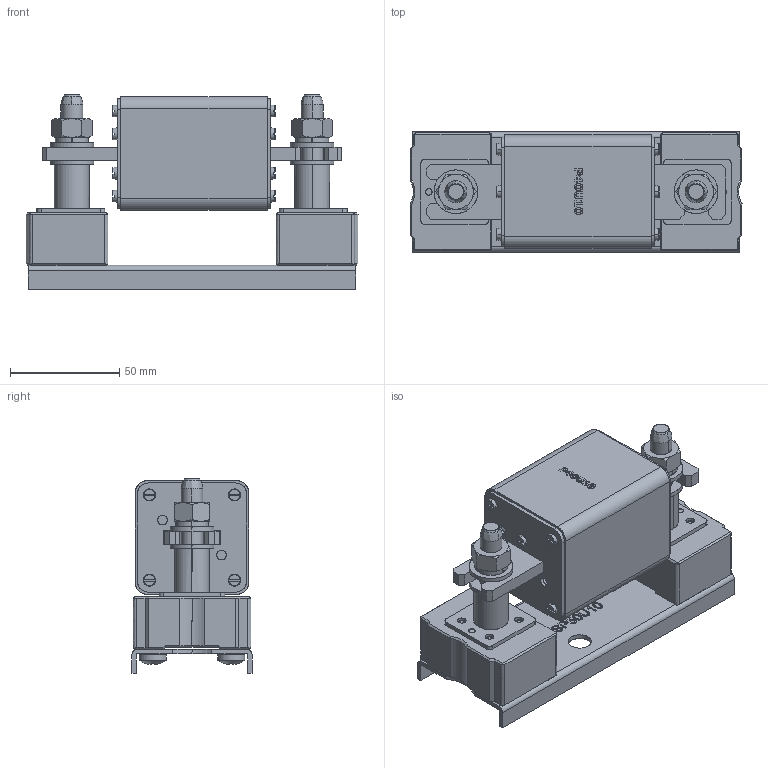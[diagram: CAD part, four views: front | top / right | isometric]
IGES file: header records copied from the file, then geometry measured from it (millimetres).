
Start section: SolidWorks IGES file using analytic representation for surfaces
Global section: file name: U:\14_RD\05_Technical_office\04_Office\Hrdinova\3D modely - IGES\Varius - Ostatní\SP50U10__P40U10.IGS; native system: SolidWorks 2011; preprocessor: SolidWorks 2011; author: adhrja3; date: 170620.142414; units: millimetre
Bounding box: 152 x 55 x 89.2 mm (x, y, z)
Surface area: 102173.6 mm2 (no closed solid volume)
Topology: 0 solids, 0 shells, 1228 faces, 16192 edges, 16168 vertices
Faces by surface type: bspline 705, revolution 523
